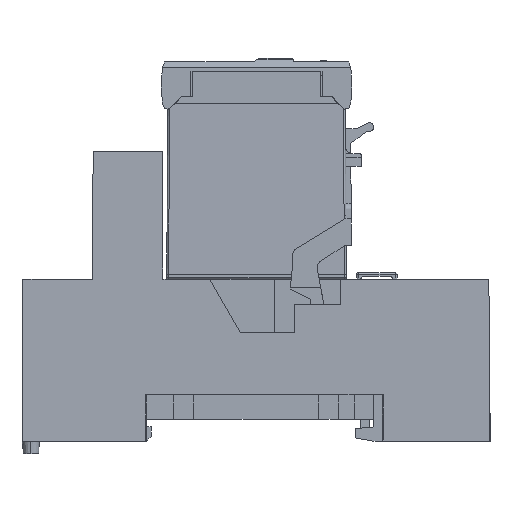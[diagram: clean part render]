
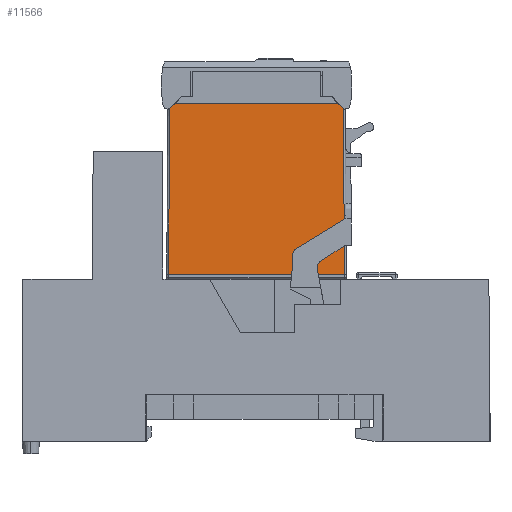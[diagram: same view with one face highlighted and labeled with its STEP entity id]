
A CAD part, left-side view. The second image highlights one B-rep face of the part: STEP entity #11566.
In plain terms, the highlighted planar face has unit normal (-1, 0, 0.006).
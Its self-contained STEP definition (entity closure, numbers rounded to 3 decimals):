
#715 = LINE ( 'NONE', #17389, #4429 ) ;
#1813 = EDGE_CURVE ( 'NONE', #29845, #13354, #52720, .T. ) ;
#2462 = VERTEX_POINT ( 'NONE', #5404 ) ;
#2789 = EDGE_CURVE ( 'NONE', #11095, #11824, #715, .T. ) ;
#4429 = VECTOR ( 'NONE', #47217, 1000. ) ;
#4853 = EDGE_CURVE ( 'NONE', #29851, #2462, #18233, .T. ) ;
#5404 = CARTESIAN_POINT ( 'NONE',  ( 2.519, 24.4, 56.2 ) ) ;
#5537 = CARTESIAN_POINT ( 'NONE',  ( 2.519, 37.43, 56.2 ) ) ;
#6013 = VECTOR ( 'NONE', #40893, 1000. ) ;
#11095 = VERTEX_POINT ( 'NONE', #45182 ) ;
#11566 = ADVANCED_FACE ( 'NONE', ( #23287 ), #40056, .F. ) ;
#11824 = VERTEX_POINT ( 'NONE', #45457 ) ;
#13354 = VERTEX_POINT ( 'NONE', #45887 ) ;
#13838 = VECTOR ( 'NONE', #15946, 1000. ) ;
#14026 = CARTESIAN_POINT ( 'NONE',  ( 2.36, 51.52, 28.8 ) ) ;
#15946 = DIRECTION ( 'NONE',  ( -0.006, -0.006, -1. ) ) ;
#15967 = CARTESIAN_POINT ( 'NONE',  ( 2.519, 50.461, 56.2 ) ) ;
#17115 = ORIENTED_EDGE ( 'NONE', *, *, #4853, .T. ) ;
#17389 = CARTESIAN_POINT ( 'NONE',  ( 2.36, 23.026, 28.8 ) ) ;
#17631 = DIRECTION ( 'NONE',  ( 0.006, -0.006, 1. ) ) ;
#18233 = LINE ( 'NONE', #39622, #51993 ) ;
#18423 = EDGE_CURVE ( 'NONE', #29845, #2462, #26297, .T. ) ;
#23287 = FACE_OUTER_BOUND ( 'NONE', #34073, .T. ) ;
#25520 = LINE ( 'NONE', #14026, #50821 ) ;
#26297 = LINE ( 'NONE', #5537, #53458 ) ;
#26445 = EDGE_CURVE ( 'NONE', #29851, #11824, #53507, .T. ) ;
#28566 = CARTESIAN_POINT ( 'NONE',  ( 2.514, 23.494, 55.295 ) ) ;
#29027 = ORIENTED_EDGE ( 'NONE', *, *, #2789, .T. ) ;
#29442 = ORIENTED_EDGE ( 'NONE', *, *, #35352, .F. ) ;
#29570 = CARTESIAN_POINT ( 'NONE',  ( 2.45, 37.43, 44.286 ) ) ;
#29845 = VERTEX_POINT ( 'NONE', #53027 ) ;
#29851 = VERTEX_POINT ( 'NONE', #28566 ) ;
#33989 = ORIENTED_EDGE ( 'NONE', *, *, #26445, .F. ) ;
#34073 = EDGE_LOOP ( 'NONE', ( #33989, #17115, #51241, #43887, #29442, #29027 ) ) ;
#35352 = EDGE_CURVE ( 'NONE', #11095, #13354, #25520, .T. ) ;
#35758 = AXIS2_PLACEMENT_3D ( 'NONE', #29570, #49902, #41408 ) ;
#39622 = CARTESIAN_POINT ( 'NONE',  ( 2.514, 23.494, 55.295 ) ) ;
#40056 = PLANE ( 'NONE',  #35758 ) ;
#40893 = DIRECTION ( 'NONE',  ( -0.004, 0.707, -0.707 ) ) ;
#41408 = DIRECTION ( 'NONE',  ( -0.006, 0., -1. ) ) ;
#43887 = ORIENTED_EDGE ( 'NONE', *, *, #1813, .T. ) ;
#43900 = DIRECTION ( 'NONE',  ( 0., -1., 0. ) ) ;
#45182 = CARTESIAN_POINT ( 'NONE',  ( 2.36, 51.52, 28.8 ) ) ;
#45457 = CARTESIAN_POINT ( 'NONE',  ( 2.36, 23.341, 28.8 ) ) ;
#45887 = CARTESIAN_POINT ( 'NONE',  ( 2.514, 51.366, 55.295 ) ) ;
#47217 = DIRECTION ( 'NONE',  ( 0., -1., 0. ) ) ;
#49607 = CARTESIAN_POINT ( 'NONE',  ( 2.514, 23.494, 55.295 ) ) ;
#49902 = DIRECTION ( 'NONE',  ( 1., 0., -0.006 ) ) ;
#50821 = VECTOR ( 'NONE', #17631, 1000. ) ;
#51241 = ORIENTED_EDGE ( 'NONE', *, *, #18423, .F. ) ;
#51706 = DIRECTION ( 'NONE',  ( 0.004, 0.707, 0.707 ) ) ;
#51993 = VECTOR ( 'NONE', #51706, 1000. ) ;
#52720 = LINE ( 'NONE', #15967, #6013 ) ;
#53027 = CARTESIAN_POINT ( 'NONE',  ( 2.519, 50.461, 56.2 ) ) ;
#53458 = VECTOR ( 'NONE', #43900, 1000. ) ;
#53507 = LINE ( 'NONE', #49607, #13838 ) ;
